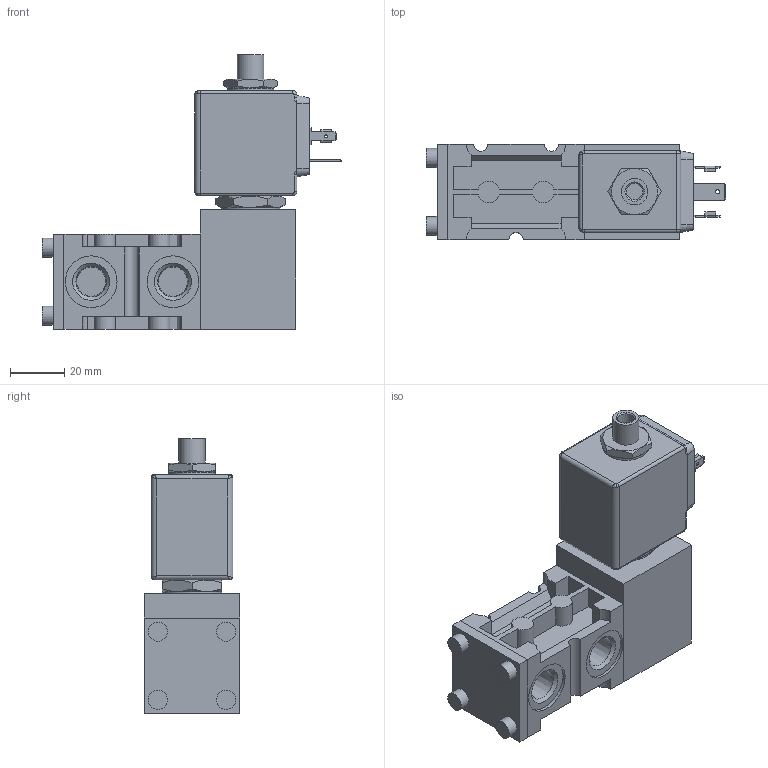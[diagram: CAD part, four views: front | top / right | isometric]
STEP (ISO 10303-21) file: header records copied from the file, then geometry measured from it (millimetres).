
FILE_DESCRIPTION(/* description */ (''),/* implementation_level */ '2;1');
FILE_NAME(/* name */ 'I:\Area Tecnica\Progetti\P118 (OIL&GAS)\DOCUMENTAZIONE\CATALOGO\VALVOLE INOX\LIBRERIA - SS VALV INOX\SS1432######\SS1432C2#01H.stp',/* time_stamp */ '2016-06-10T11:49:53+02:00',/* author */ ('Maniean1'),/* organization */ ('Pneumax S.p.A.'),/* preprocessor_version */ 'ST-DEVELOPER v15.2',/* originating_system */ 'Autodesk Inventor 2014',/* authorisation */ '');
FILE_SCHEMA (('AUTOMOTIVE_DESIGN { 1 0 10303 214 3 1 1 }'));
Length unit declared in the file: millimetre
Products named in the file (3): #8189; 214-C-MG##; #8191
Bounding box: 110 x 35 x 100.85 mm (x, y, z)
Volume: 147960.4 mm3; surface area: 30341.9 mm2
Topology: 3 solids, 3 shells, 271 faces, 661 edges, 418 vertices
Faces by surface type: plane 175, cylinder 63, cone 17, bspline 16
Full cylindrical faces by diameter (mm): 1 x2, 1.5 x1, 2.5 x1, 4.134 x2, 4.4 x2, 6.1 x1, 7 x4, 9.7 x1, 10.719 x3, 16.9 x1, 19 x3, 20.5 x2, 21.8 x1
Entity records: 8158 total; most frequent: CARTESIAN_POINT 1875, DIRECTION 1262, ORIENTED_EDGE 1228, EDGE_CURVE 614, AXIS2_PLACEMENT_3D 424, LINE 414, VECTOR 414, VERTEX_POINT 412
